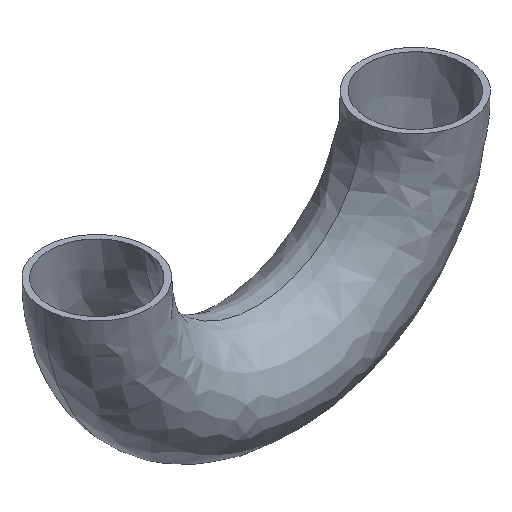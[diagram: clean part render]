
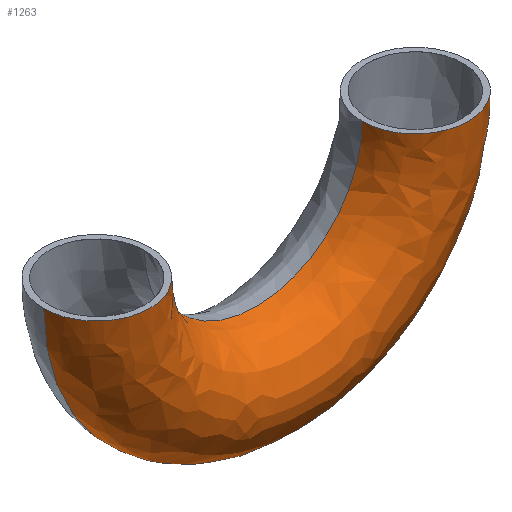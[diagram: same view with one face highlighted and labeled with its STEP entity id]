
A CAD part, isometric view. The second image highlights one B-rep face of the part: STEP entity #1263.
In plain terms, the highlighted free-form (B-spline) face has degree [3, 3] with [4, 4] control points.
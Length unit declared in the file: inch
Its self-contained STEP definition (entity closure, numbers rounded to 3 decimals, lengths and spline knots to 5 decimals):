
#37 = DIRECTION ( 'NONE',  ( 0., -1., 0. ) ) ;
#53 = CARTESIAN_POINT ( 'NONE',  ( -1.87492, 0., -0.01678 ) ) ;
#224 = CARTESIAN_POINT ( 'NONE',  ( -0.59143, 0., -2.49985 ) ) ;
#251 = CARTESIAN_POINT ( 'NONE',  ( -3.09128, 0., -2.53342 ) ) ;
#279 = CARTESIAN_POINT ( 'NONE',  ( -3.12485, 0., -0.03357 ) ) ;
#292 = VERTEX_POINT ( 'NONE', #3392 ) ;
#1163 = AXIS2_PLACEMENT_3D ( 'NONE', #3959, #3738, #3726 ) ;
#1193 = AXIS2_PLACEMENT_3D ( 'NONE', #4038, #4028, #4015 ) ;
#1231 = DIRECTION ( 'NONE',  ( -1., 0., -0.007 ) ) ;
#1243 = DIRECTION ( 'NONE',  ( 0., -1., 0. ) ) ;
#1260 = AXIS2_PLACEMENT_3D ( 'NONE', #1518, #1243, #1231 ) ;
#1263 = ADVANCED_FACE ( 'NONE', ( #3336 ), #1610, .T. ) ;
#1354 = AXIS2_PLACEMENT_3D ( 'NONE', #53, #37, #2466 ) ;
#1518 = CARTESIAN_POINT ( 'NONE',  ( -1.87492, 0., -0.01678 ) ) ;
#1610 =( BOUNDED_SURFACE ( )  B_SPLINE_SURFACE ( 3, 3, ( 
 ( #279, #251, #224, #3908 ),
 ( #3925, #3880, #3850, #3638 ),
 ( #3576, #3543, #3603, #3317 ),
 ( #3298, #3281, #3267, #3238 ) ),
 .UNSPECIFIED., .F., .F., .T. ) 
 B_SPLINE_SURFACE_WITH_KNOTS ( ( 4, 4 ),
 ( 4, 4 ),
 ( 0., 1. ),
 ( 0., 1. ),
 .UNSPECIFIED. ) 
 GEOMETRIC_REPRESENTATION_ITEM ( )  RATIONAL_B_SPLINE_SURFACE ( (
 ( 1., 0.333, 0.333, 1.),
 ( 0.333, 0.111, 0.111, 0.333),
 ( 0.333, 0.111, 0.111, 0.333),
 ( 1., 0.333, 0.333, 1.) ) ) 
 REPRESENTATION_ITEM ( '' )  SURFACE ( )  );
#1816 = ORIENTED_EDGE ( 'NONE', *, *, #2172, .F. ) ;
#1904 = VERTEX_POINT ( 'NONE', #2332 ) ;
#1951 = ORIENTED_EDGE ( 'NONE', *, *, #2536, .F. ) ;
#2172 = EDGE_CURVE ( 'NONE', #1904, #2648, #3526, .T. ) ;
#2213 = EDGE_CURVE ( 'NONE', #292, #2759, #3223, .T. ) ;
#2332 = CARTESIAN_POINT ( 'NONE',  ( -3.12485, 0., -0.03357 ) ) ;
#2466 = DIRECTION ( 'NONE',  ( -1., 0., -0.013 ) ) ;
#2475 = EDGE_CURVE ( 'NONE', #1904, #292, #2594, .T. ) ;
#2536 = EDGE_CURVE ( 'NONE', #2648, #2759, #2709, .T. ) ;
#2594 = CIRCLE ( 'NONE', #1193, 0.625 ) ;
#2641 = ORIENTED_EDGE ( 'NONE', *, *, #2475, .T. ) ;
#2648 = VERTEX_POINT ( 'NONE', #3990 ) ;
#2709 = CIRCLE ( 'NONE', #1163, 0.625 ) ;
#2759 = VERTEX_POINT ( 'NONE', #3975 ) ;
#3223 = CIRCLE ( 'NONE', #1260, 2.49998 ) ;
#3238 = CARTESIAN_POINT ( 'NONE',  ( 0.625, 0., 0. ) ) ;
#3267 = CARTESIAN_POINT ( 'NONE',  ( 0.65857, 0., -4.99985 ) ) ;
#3281 = CARTESIAN_POINT ( 'NONE',  ( -4.34128, 0., -5.03342 ) ) ;
#3298 = CARTESIAN_POINT ( 'NONE',  ( -4.37485, 0., -0.03357 ) ) ;
#3317 = CARTESIAN_POINT ( 'NONE',  ( 0.625, -1.25, 0. ) ) ;
#3336 = FACE_OUTER_BOUND ( 'NONE', #3523, .T. ) ;
#3392 = CARTESIAN_POINT ( 'NONE',  ( -4.37485, 0., -0.03357 ) ) ;
#3523 = EDGE_LOOP ( 'NONE', ( #1816, #2641, #3573, #1951 ) ) ;
#3526 = CIRCLE ( 'NONE', #1354, 1.25004 ) ;
#3543 = CARTESIAN_POINT ( 'NONE',  ( -4.34128, -1.25, -5.03342 ) ) ;
#3573 = ORIENTED_EDGE ( 'NONE', *, *, #2213, .T. ) ;
#3576 = CARTESIAN_POINT ( 'NONE',  ( -4.37485, -1.25, -0.03357 ) ) ;
#3603 = CARTESIAN_POINT ( 'NONE',  ( 0.65857, -1.25, -4.99985 ) ) ;
#3638 = CARTESIAN_POINT ( 'NONE',  ( -0.625, -1.25, 0. ) ) ;
#3726 = DIRECTION ( 'NONE',  ( 1., 0., 0. ) ) ;
#3738 = DIRECTION ( 'NONE',  ( 0., 0., 1. ) ) ;
#3850 = CARTESIAN_POINT ( 'NONE',  ( -0.59143, -1.25, -2.49985 ) ) ;
#3880 = CARTESIAN_POINT ( 'NONE',  ( -3.09128, -1.25, -2.53342 ) ) ;
#3908 = CARTESIAN_POINT ( 'NONE',  ( -0.625, 0., 0. ) ) ;
#3925 = CARTESIAN_POINT ( 'NONE',  ( -3.12485, -1.25, -0.03357 ) ) ;
#3959 = CARTESIAN_POINT ( 'NONE',  ( 0., 0., 0. ) ) ;
#3975 = CARTESIAN_POINT ( 'NONE',  ( 0.625, 0., 0. ) ) ;
#3990 = CARTESIAN_POINT ( 'NONE',  ( -0.625, 0., 0. ) ) ;
#4015 = DIRECTION ( 'NONE',  ( -1., 0., 0. ) ) ;
#4028 = DIRECTION ( 'NONE',  ( 0., 0., -1. ) ) ;
#4038 = CARTESIAN_POINT ( 'NONE',  ( -3.74985, 0., -0.03357 ) ) ;
